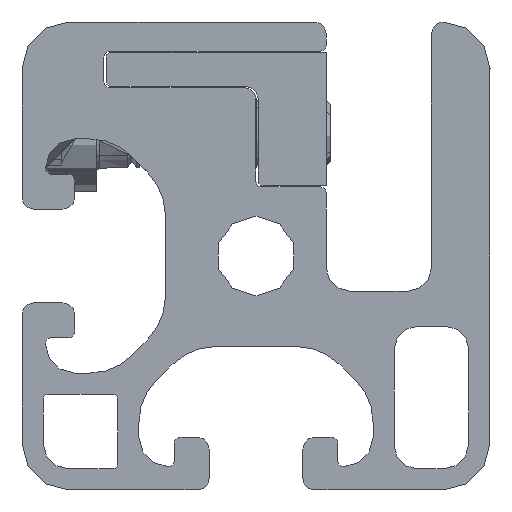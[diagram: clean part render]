
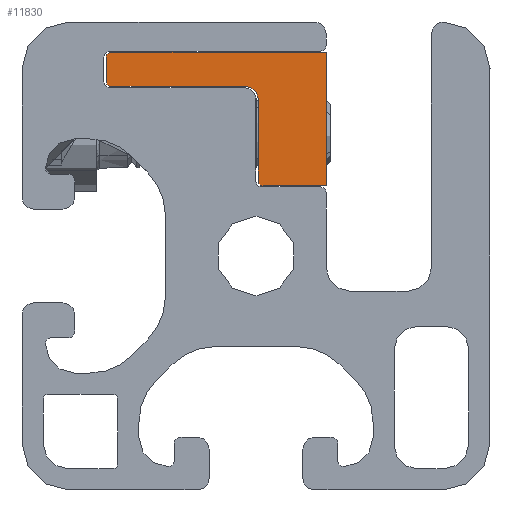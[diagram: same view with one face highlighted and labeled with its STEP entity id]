
A CAD part, left-side view. The second image highlights one B-rep face of the part: STEP entity #11830.
In plain terms, the highlighted planar face has unit normal (-1, 0, 0) as drawn and (0, 0, -1) by its records, which use the part's own axes.
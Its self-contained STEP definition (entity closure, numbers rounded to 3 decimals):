
#332 = CARTESIAN_POINT ( 'NONE',  ( 4., 6.9, -6000. ) ) ;
#1012 = CARTESIAN_POINT ( 'NONE',  ( 2.9, 6.9, -6000. ) ) ;
#1022 = DIRECTION ( 'NONE',  ( 0., 0., 1. ) ) ;
#1043 = ORIENTED_EDGE ( 'NONE', *, *, #19853, .F. ) ;
#1694 = CARTESIAN_POINT ( 'NONE',  ( 0., 0., -6000. ) ) ;
#3052 = ORIENTED_EDGE ( 'NONE', *, *, #24579, .F. ) ;
#3268 = LINE ( 'NONE', #1012, #15901 ) ;
#3308 = DIRECTION ( 'NONE',  ( 0., 0., 1. ) ) ;
#3893 = DIRECTION ( 'NONE',  ( -1., 0., 0. ) ) ;
#3928 = ORIENTED_EDGE ( 'NONE', *, *, #6317, .F. ) ;
#4132 = CARTESIAN_POINT ( 'NONE',  ( 0., 0., -6000. ) ) ;
#4184 = AXIS2_PLACEMENT_3D ( 'NONE', #17068, #1022, #7034 ) ;
#4208 = VERTEX_POINT ( 'NONE', #26297 ) ;
#4644 = LINE ( 'NONE', #12793, #11394 ) ;
#5676 = CARTESIAN_POINT ( 'NONE',  ( 0., 18.4, -6000. ) ) ;
#5712 = EDGE_CURVE ( 'NONE', #20254, #14276, #21292, .T. ) ;
#6312 = VECTOR ( 'NONE', #25148, 1000. ) ;
#6317 = EDGE_CURVE ( 'NONE', #11146, #20254, #15760, .T. ) ;
#6334 = DIRECTION ( 'NONE',  ( 0., 0., -1. ) ) ;
#6389 = AXIS2_PLACEMENT_3D ( 'NONE', #332, #6334, #20527 ) ;
#6426 = DIRECTION ( 'NONE',  ( 1., 0., 0. ) ) ;
#7034 = DIRECTION ( 'NONE',  ( 1., 0., 0. ) ) ;
#7042 = EDGE_CURVE ( 'NONE', #18561, #20312, #7224, .T. ) ;
#7224 = CIRCLE ( 'NONE', #15756, 0.4 ) ;
#7259 = DIRECTION ( 'NONE',  ( 0., 1., 0. ) ) ;
#7573 = VERTEX_POINT ( 'NONE', #10368 ) ;
#7665 = LINE ( 'NONE', #9789, #13214 ) ;
#8006 = EDGE_CURVE ( 'NONE', #7573, #10004, #17941, .T. ) ;
#8043 = VERTEX_POINT ( 'NONE', #24525 ) ;
#8267 = EDGE_LOOP ( 'NONE', ( #18392, #3928, #15371, #14400, #3052, #16572, #24148, #12803, #13803, #1043 ) ) ;
#9749 = DIRECTION ( 'NONE',  ( 0., 0., 1. ) ) ;
#9789 = CARTESIAN_POINT ( 'NONE',  ( 11., 5.8, -6000. ) ) ;
#10004 = VERTEX_POINT ( 'NONE', #19077 ) ;
#10368 = CARTESIAN_POINT ( 'NONE',  ( 4., 5.8, -6000. ) ) ;
#11132 = CARTESIAN_POINT ( 'NONE',  ( 11.4, 0., -6000. ) ) ;
#11146 = VERTEX_POINT ( 'NONE', #22427 ) ;
#11394 = VECTOR ( 'NONE', #15873, 1000. ) ;
#11426 = DIRECTION ( 'NONE',  ( 0., 1., 0. ) ) ;
#11616 = VECTOR ( 'NONE', #7259, 1000. ) ;
#11830 = ADVANCED_FACE ( 'NONE', ( #18215 ), #16319, .F. ) ;
#12026 = CARTESIAN_POINT ( 'NONE',  ( 11., 5.4, -6000. ) ) ;
#12052 = DIRECTION ( 'NONE',  ( 0., 0., 1. ) ) ;
#12793 = CARTESIAN_POINT ( 'NONE',  ( 2.5, 18.8, -6000. ) ) ;
#12803 = ORIENTED_EDGE ( 'NONE', *, *, #7042, .F. ) ;
#13214 = VECTOR ( 'NONE', #3893, 1000. ) ;
#13481 = LINE ( 'NONE', #1694, #23837 ) ;
#13571 = CARTESIAN_POINT ( 'NONE',  ( 11., 5.8, -6000. ) ) ;
#13803 = ORIENTED_EDGE ( 'NONE', *, *, #26169, .F. ) ;
#14276 = VERTEX_POINT ( 'NONE', #4132 ) ;
#14323 = CARTESIAN_POINT ( 'NONE',  ( 11., 5.4, -6000. ) ) ;
#14400 = ORIENTED_EDGE ( 'NONE', *, *, #20127, .F. ) ;
#15035 = AXIS2_PLACEMENT_3D ( 'NONE', #14323, #12052, #6426 ) ;
#15371 = ORIENTED_EDGE ( 'NONE', *, *, #18591, .F. ) ;
#15628 = DIRECTION ( 'NONE',  ( 1., 0., 0. ) ) ;
#15738 = CIRCLE ( 'NONE', #4184, 0.4 ) ;
#15756 = AXIS2_PLACEMENT_3D ( 'NONE', #12026, #9749, #15915 ) ;
#15760 = CIRCLE ( 'NONE', #23465, 0.4 ) ;
#15873 = DIRECTION ( 'NONE',  ( -1., 0., 0. ) ) ;
#15901 = VECTOR ( 'NONE', #11426, 1000. ) ;
#15915 = DIRECTION ( 'NONE',  ( 1., 0., 0. ) ) ;
#16319 = PLANE ( 'NONE',  #15035 ) ;
#16572 = ORIENTED_EDGE ( 'NONE', *, *, #8006, .F. ) ;
#17068 = CARTESIAN_POINT ( 'NONE',  ( 2.5, 18.4, -6000. ) ) ;
#17941 = CIRCLE ( 'NONE', #6389, 1.1 ) ;
#18215 = FACE_OUTER_BOUND ( 'NONE', #8267, .T. ) ;
#18235 = CARTESIAN_POINT ( 'NONE',  ( 2.5, 18.8, -6000. ) ) ;
#18392 = ORIENTED_EDGE ( 'NONE', *, *, #5712, .F. ) ;
#18561 = VERTEX_POINT ( 'NONE', #21115 ) ;
#18591 = EDGE_CURVE ( 'NONE', #24665, #11146, #4644, .T. ) ;
#19077 = CARTESIAN_POINT ( 'NONE',  ( 2.9, 6.9, -6000. ) ) ;
#19853 = EDGE_CURVE ( 'NONE', #14276, #8043, #13481, .T. ) ;
#20127 = EDGE_CURVE ( 'NONE', #4208, #24665, #15738, .T. ) ;
#20254 = VERTEX_POINT ( 'NONE', #5676 ) ;
#20312 = VERTEX_POINT ( 'NONE', #13571 ) ;
#20527 = DIRECTION ( 'NONE',  ( -1., 0., 0. ) ) ;
#20926 = EDGE_CURVE ( 'NONE', #20312, #7573, #7665, .T. ) ;
#21115 = CARTESIAN_POINT ( 'NONE',  ( 11.4, 5.4, -6000. ) ) ;
#21292 = LINE ( 'NONE', #23147, #6312 ) ;
#22427 = CARTESIAN_POINT ( 'NONE',  ( 0.4, 18.8, -6000. ) ) ;
#23147 = CARTESIAN_POINT ( 'NONE',  ( 0., 18.4, -6000. ) ) ;
#23465 = AXIS2_PLACEMENT_3D ( 'NONE', #25785, #3308, #15628 ) ;
#23790 = DIRECTION ( 'NONE',  ( 1., 0., 0. ) ) ;
#23837 = VECTOR ( 'NONE', #23790, 1000. ) ;
#24148 = ORIENTED_EDGE ( 'NONE', *, *, #20926, .F. ) ;
#24525 = CARTESIAN_POINT ( 'NONE',  ( 11.4, 0., -6000. ) ) ;
#24579 = EDGE_CURVE ( 'NONE', #10004, #4208, #3268, .T. ) ;
#24665 = VERTEX_POINT ( 'NONE', #18235 ) ;
#25148 = DIRECTION ( 'NONE',  ( 0., -1., 0. ) ) ;
#25585 = LINE ( 'NONE', #11132, #11616 ) ;
#25785 = CARTESIAN_POINT ( 'NONE',  ( 0.4, 18.4, -6000. ) ) ;
#26169 = EDGE_CURVE ( 'NONE', #8043, #18561, #25585, .T. ) ;
#26297 = CARTESIAN_POINT ( 'NONE',  ( 2.9, 18.4, -6000. ) ) ;
